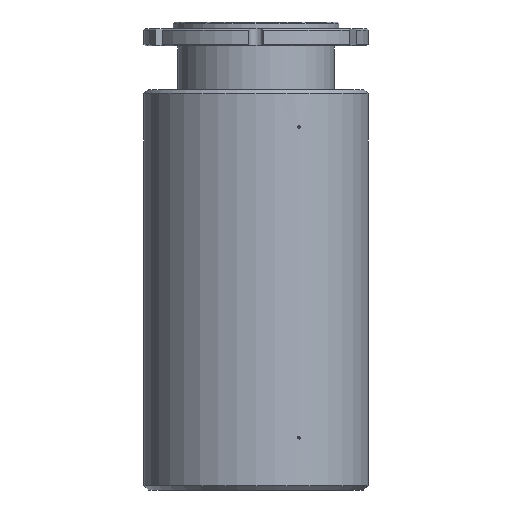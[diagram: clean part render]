
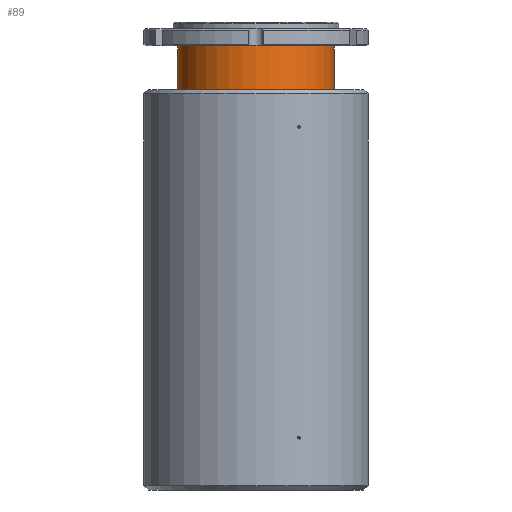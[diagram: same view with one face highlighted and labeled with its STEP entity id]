
A CAD part, front view. The second image highlights one B-rep face of the part: STEP entity #89.
In plain terms, the highlighted cylindrical face has radius 57.15 mm (diameter 114.3 mm), a partial arc.
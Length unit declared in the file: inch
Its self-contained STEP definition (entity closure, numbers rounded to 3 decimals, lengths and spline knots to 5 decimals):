
#10 = EDGE_CURVE ( 'NONE', #4968, #4962, #6057, .T. ) ;
#89 = ADVANCED_FACE ( 'NONE', ( #4140 ), #4139, .T. ) ;
#205 = EDGE_CURVE ( 'NONE', #4885, #4962, #9256, .T. ) ;
#343 = EDGE_CURVE ( 'NONE', #4883, #4885, #6491, .T. ) ;
#478 = EDGE_CURVE ( 'NONE', #4883, #4968, #8614, .T. ) ;
#2403 = CARTESIAN_POINT ( 'NONE',  ( -2.25, 0., -1.93705 ) ) ;
#2410 = CARTESIAN_POINT ( 'NONE',  ( 2.25, 0., -1.93705 ) ) ;
#2485 = CARTESIAN_POINT ( 'NONE',  ( 2.25, 0., -0.687 ) ) ;
#2491 = CARTESIAN_POINT ( 'NONE',  ( -2.25, 0., -0.687 ) ) ;
#4126 = DIRECTION ( 'NONE',  ( 0., 0., 1. ) ) ;
#4139 = CYLINDRICAL_SURFACE ( 'NONE', #6460, 2.25 ) ;
#4140 = FACE_OUTER_BOUND ( 'NONE', #4724, .T. ) ;
#4141 = CARTESIAN_POINT ( 'NONE',  ( 0., 0., 0. ) ) ;
#4143 = DIRECTION ( 'NONE',  ( 1., 0., 0. ) ) ;
#4724 = EDGE_LOOP ( 'NONE', ( #10388, #10389, #10390, #10391 ) ) ;
#4883 = VERTEX_POINT ( 'NONE', #2403 ) ;
#4885 = VERTEX_POINT ( 'NONE', #2410 ) ;
#4962 = VERTEX_POINT ( 'NONE', #2485 ) ;
#4968 = VERTEX_POINT ( 'NONE', #2491 ) ;
#5242 = CARTESIAN_POINT ( 'NONE',  ( 0., 0., -0.687 ) ) ;
#5243 = DIRECTION ( 'NONE',  ( 0., 0., 1. ) ) ;
#5244 = DIRECTION ( 'NONE',  ( 1., 0., 0. ) ) ;
#5459 = VECTOR ( 'NONE', #8632, 39.37008 ) ;
#6039 = AXIS2_PLACEMENT_3D ( 'NONE', #5242, #5243, #5244 ) ;
#6057 = CIRCLE ( 'NONE', #6039, 2.25 ) ;
#6126 = VECTOR ( 'NONE', #9264, 39.37008 ) ;
#6460 = AXIS2_PLACEMENT_3D ( 'NONE', #4141, #4126, #4143 ) ;
#6491 = CIRCLE ( 'NONE', #6520, 2.25 ) ;
#6520 = AXIS2_PLACEMENT_3D ( 'NONE', #7878, #7879, #7880 ) ;
#7878 = CARTESIAN_POINT ( 'NONE',  ( 0., 0., -1.93705 ) ) ;
#7879 = DIRECTION ( 'NONE',  ( 0., 0., 1. ) ) ;
#7880 = DIRECTION ( 'NONE',  ( 1., 0., 0. ) ) ;
#8614 = LINE ( 'NONE', #8630, #5459 ) ;
#8630 = CARTESIAN_POINT ( 'NONE',  ( -2.25, 0., 0. ) ) ;
#8632 = DIRECTION ( 'NONE',  ( 0., 0., 1. ) ) ;
#9256 = LINE ( 'NONE', #9262, #6126 ) ;
#9262 = CARTESIAN_POINT ( 'NONE',  ( 2.25, 0., 0. ) ) ;
#9264 = DIRECTION ( 'NONE',  ( 0., 0., 1. ) ) ;
#10388 = ORIENTED_EDGE ( 'NONE', *, *, #478, .F. ) ;
#10389 = ORIENTED_EDGE ( 'NONE', *, *, #343, .T. ) ;
#10390 = ORIENTED_EDGE ( 'NONE', *, *, #205, .T. ) ;
#10391 = ORIENTED_EDGE ( 'NONE', *, *, #10, .F. ) ;
